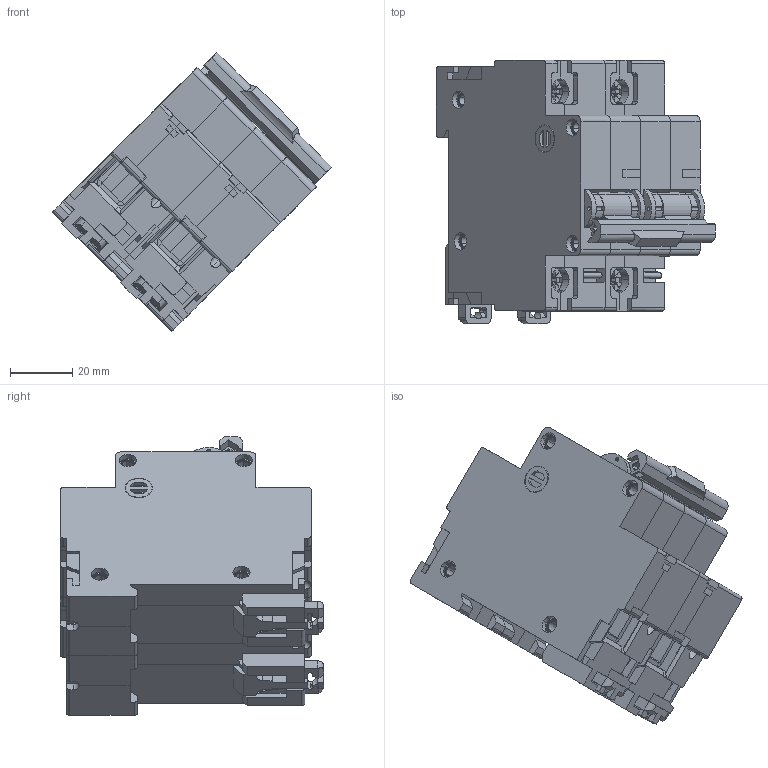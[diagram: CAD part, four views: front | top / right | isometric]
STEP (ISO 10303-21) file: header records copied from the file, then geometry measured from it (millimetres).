
FILE_DESCRIPTION (( 'STEP AP214' ), '1' );
FILE_NAME ('臍47-100 2 瀁錌黟.STEP', '2022-11-18T09:46:43', ( '' ), ( '' ), 'SwSTEP 2.0', 'SolidWorks 2018', '' );
FILE_SCHEMA (( 'AUTOMOTIVE_DESIGN' ));
Length unit declared in the file: millimetre
Products named in the file (14): ÂÀ47-100-1_1 ¤«ï 2; Çàêëåïêà ÂÀ47-100_2-å; Êîëîäêà ÂÀ47-100; Áîêîâèíà ëåâàÿ ÂÀ47-100; 青汶篪赅 (吕47-29) 14.02.2022; 鎔艜 臍47-100; Ñêîáà (ÂÀ47-100 OFA) 04.2022_2 ¯®«îá ; ﾂ鏆鮏 ﾂﾀ47-100; 栺樏鋋 鴈儰罻襜譇 臍47-100; 臍47-100 2 瀁錌黟; Áîêîâèíà ïðàâàÿ ÂÀ47-100; Ðó÷êà ÂÀ47-100; ﾂﾀ47-100-1_尚皚･､ｭｨｩ ｯｮｫ髜; Çàù¸ëêà ÂÀ47-100_¤«ï á¡®àª¨
Assembly tree (33 placements, depth 3):
  臍47-100 2 瀁錌黟
    ÂÀ47-100-1_1 ¤«ï 2
      Áîêîâèíà ëåâàÿ ÂÀ47-100
      Áîêîâèíà ïðàâàÿ ÂÀ47-100
      Çàù¸ëêà ÂÀ47-100_¤«ï á¡®àª¨
      Çàêëåïêà ÂÀ47-100_2-å  x4
      青汶篪赅 (吕47-29) 14.02.2022  x2
      Ðó÷êà ÂÀ47-100
      鎔艜 臍47-100  x2
      Êîëîäêà ÂÀ47-100  x2
      栺樏鋋 鴈儰罻襜譇 臍47-100
      ﾂ鏆鮏 ﾂﾀ47-100  x2
    Ñêîáà (ÂÀ47-100 OFA) 04.2022_2 ¯®«îá 
    ﾂﾀ47-100-1_尚皚･､ｭｨｩ ｯｮｫ髜
      Áîêîâèíà ëåâàÿ ÂÀ47-100
      Áîêîâèíà ïðàâàÿ ÂÀ47-100
      Çàù¸ëêà ÂÀ47-100_¤«ï á¡®àª¨
      青汶篪赅 (吕47-29) 14.02.2022  x2
      Ðó÷êà ÂÀ47-100
      鎔艜 臍47-100  x2
      Êîëîäêà ÂÀ47-100  x2
      栺樏鋋 鴈儰罻襜譇 臍47-100
      ﾂ鏆鮏 ﾂﾀ47-100  x2
Bounding box: 89.46 x 84.3 x 89.39 mm (x, y, z)
Volume: 199956.9 mm3; surface area: 81529.2 mm2
Topology: 31 solids, 31 shells, 1698 faces, 4516 edges, 2920 vertices
Faces by surface type: plane 1258, cylinder 392, torus 48
Entity records: 22172 total; most frequent: CARTESIAN_POINT 3932, ORIENTED_EDGE 3722, DIRECTION 3628, EDGE_CURVE 1861, LINE 1460, VECTOR 1460, VERTEX_POINT 1212, AXIS2_PLACEMENT_3D 1084
